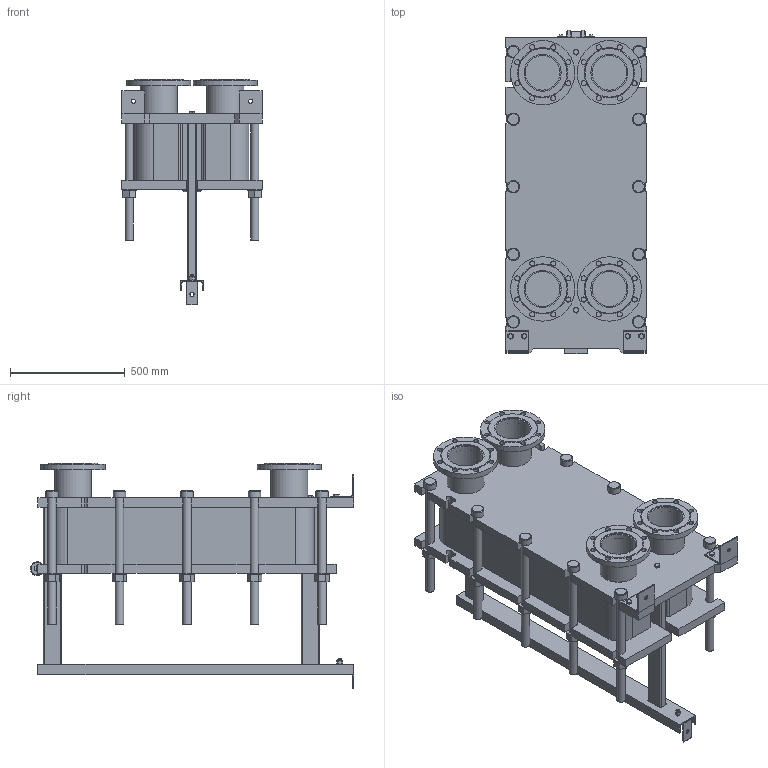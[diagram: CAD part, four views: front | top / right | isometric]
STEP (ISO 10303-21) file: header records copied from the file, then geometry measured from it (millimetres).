
FILE_DESCRIPTION(/* description */ (''),/* implementation_level */ '2;1');
FILE_NAME(/* name */ 'C:\Users\zhuro\Desktop\ENCO\TO\ЭН-041\ЭН-0,5-041-72-1.stp',/* time_stamp */ '2022-06-06T10:55:24+03:00',/* author */ ('zhuro'),/* organization */ (''),/* preprocessor_version */ 'ST-DEVELOPER v18.1',/* originating_system */ 'Autodesk Inventor 2022',/* authorisation */ '');
FILE_SCHEMA (('AUTOMOTIVE_DESIGN { 1 0 10303 214 3 1 1 }'));
Length unit declared in the file: millimetre
Products named in the file (1): ЭН-0,5-041-72-1
Bounding box: 610 x 1406.5 x 980 mm (x, y, z)
Volume: 218214940.3 mm3; surface area: 8407134.1 mm2
Topology: 52 solids, 52 shells, 711 faces, 1696 edges, 1094 vertices
Faces by surface type: plane 487, cylinder 177, cone 41, torus 6
Full cylindrical faces by diameter (mm): 8 x4, 10 x2, 16 x8, 18 x3, 22 x32, 36 x24, 50 x1, 54 x10, 60 x12, 151 x4, 161 x8, 280 x4
Entity records: 22667 total; most frequent: CARTESIAN_POINT 5230, DIRECTION 3644, ORIENTED_EDGE 3392, EDGE_CURVE 1696, AXIS2_PLACEMENT_3D 1272, LINE 1100, VECTOR 1100, VERTEX_POINT 1094
